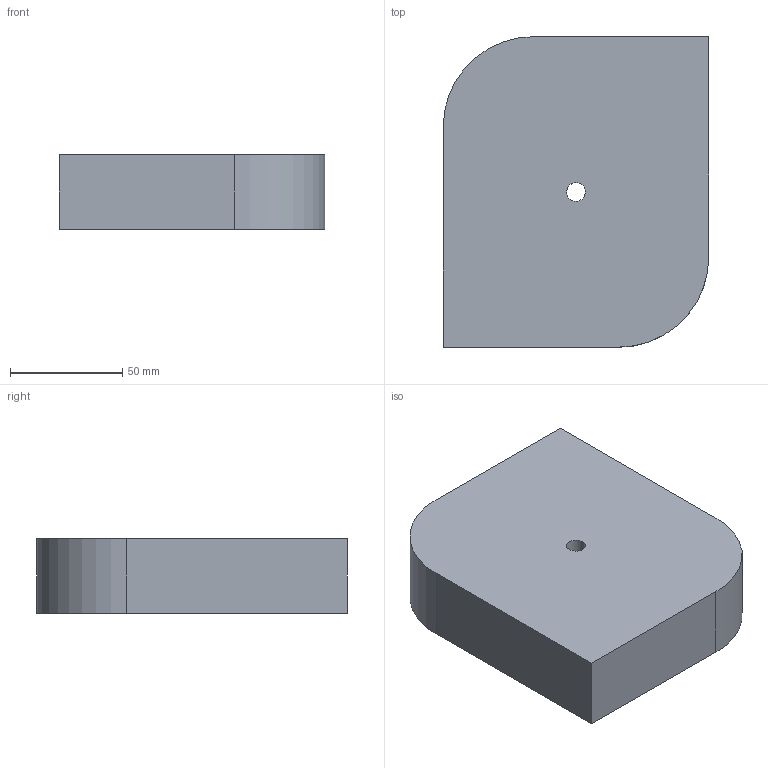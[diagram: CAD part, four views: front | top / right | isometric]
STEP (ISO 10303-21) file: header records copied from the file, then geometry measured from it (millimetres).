
FILE_DESCRIPTION(('CATIA V5 STEP Exchange'),'2;1');
FILE_NAME('C:\_Andres\UNIVERSIDAD\IQS\ASIGNATURAS\DAO\EXF\EXF-15161c\1original\Vila_Vaquer_Ej01-plano_v28.stp','2016-03-04T14:59:48+00:00',('none'),('none'),'CATIA Version 5 Release 20 SP 1 (IN-10)','CATIA V5 STEP AP203','none');
FILE_SCHEMA(('CONFIG_CONTROL_DESIGN'));
Length unit declared in the file: millimetre
Products named in the file (1): Vila_Vaquer_Ej01-plano_v28
Bounding box: 118 x 138 x 33 mm (x, y, z)
Volume: 512891.7 mm3; surface area: 47715.6 mm2
Topology: 1 solids, 1 shells, 10 faces, 24 edges, 16 vertices
Faces by surface type: plane 6, cylinder 4
Entity records: 333 total; most frequent: CARTESIAN_POINT 51, ORIENTED_EDGE 48, DIRECTION 44, EDGE_CURVE 24, AXIS2_PLACEMENT_3D 19, VECTOR 16, LINE 16, VERTEX_POINT 16
